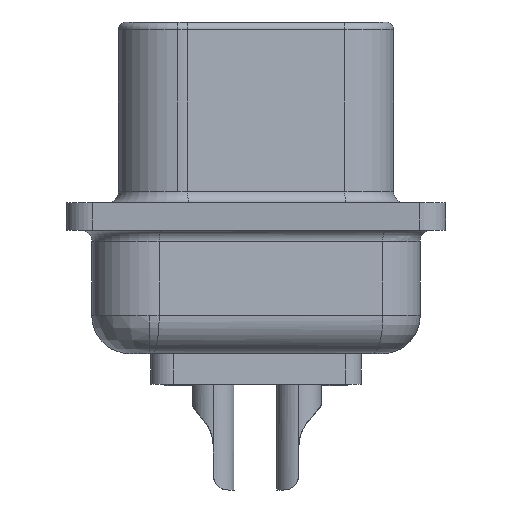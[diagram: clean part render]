
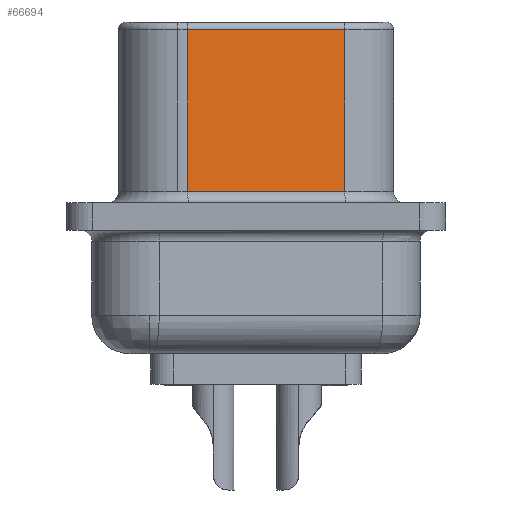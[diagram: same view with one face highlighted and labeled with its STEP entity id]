
A CAD part, left-side view. The second image highlights one B-rep face of the part: STEP entity #66694.
In plain terms, the highlighted planar face has unit normal (-0.985, -0.174, 0).
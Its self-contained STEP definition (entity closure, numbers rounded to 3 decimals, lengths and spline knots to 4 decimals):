
#10583 = VERTEX_POINT('',#10584);
#10584 = CARTESIAN_POINT('',(6.5648,8.5648,5.746));
#10599 = CYLINDRICAL_SURFACE('',#10600,1.9558);
#10600 = AXIS2_PLACEMENT_3D('',#10601,#10602,#10603);
#10601 = CARTESIAN_POINT('',(8.4909,8.9044,6.));
#10602 = DIRECTION('',(-0.,-0.,-1.));
#10603 = DIRECTION('',(-1.,0.,0.));
#10626 = CYLINDRICAL_SURFACE('',#10627,0.254);
#10627 = AXIS2_PLACEMENT_3D('',#10628,#10629,#10630);
#10628 = CARTESIAN_POINT('',(7.7337,3.3985,5.746));
#10629 = DIRECTION('',(0.174,-0.985,0.));
#10630 = DIRECTION('',(0.985,0.174,0.));
#10787 = VERTEX_POINT('',#10788);
#10788 = CARTESIAN_POINT('',(6.5648,8.5648,0.381));
#10815 = EDGE_CURVE('',#10583,#10787,#10816,.T.);
#10816 = SURFACE_CURVE('',#10817,(#10821,#10828),.PCURVE_S1.);
#10817 = LINE('',#10818,#10819);
#10818 = CARTESIAN_POINT('',(6.5648,8.5648,6.));
#10819 = VECTOR('',#10820,1.);
#10820 = DIRECTION('',(-0.,-0.,-1.));
#10821 = PCURVE('',#10599,#10822);
#10822 = DEFINITIONAL_REPRESENTATION('',(#10823),#10827);
#10823 = LINE('',#10824,#10825);
#10824 = CARTESIAN_POINT('',(6.109,0.));
#10825 = VECTOR('',#10826,1.);
#10826 = DIRECTION('',(0.,1.));
#10827 = ( GEOMETRIC_REPRESENTATION_CONTEXT(2) 
PARAMETRIC_REPRESENTATION_CONTEXT() REPRESENTATION_CONTEXT('2D SPACE',''
  ) );
#10828 = PCURVE('',#10829,#10834);
#10829 = PLANE('',#10830);
#10830 = AXIS2_PLACEMENT_3D('',#10831,#10832,#10833);
#10831 = CARTESIAN_POINT('',(7.4835,3.3544,6.));
#10832 = DIRECTION('',(0.985,0.174,-0.));
#10833 = DIRECTION('',(-0.174,0.985,0.));
#10834 = DEFINITIONAL_REPRESENTATION('',(#10835),#10839);
#10835 = LINE('',#10836,#10837);
#10836 = CARTESIAN_POINT('',(5.291,0.));
#10837 = VECTOR('',#10838,1.);
#10838 = DIRECTION('',(0.,-1.));
#10839 = ( GEOMETRIC_REPRESENTATION_CONTEXT(2) 
PARAMETRIC_REPRESENTATION_CONTEXT() REPRESENTATION_CONTEXT('2D SPACE',''
  ) );
#62458 = CYLINDRICAL_SURFACE('',#62459,0.381);
#62459 = AXIS2_PLACEMENT_3D('',#62460,#62461,#62462);
#62460 = CARTESIAN_POINT('',(7.1083,3.2882,0.381));
#62461 = DIRECTION('',(0.174,-0.985,0.));
#62462 = DIRECTION('',(0.985,0.174,0.));
#63433 = EDGE_CURVE('',#63434,#63436,#63438,.T.);
#63434 = VERTEX_POINT('',#63435);
#63435 = CARTESIAN_POINT('',(7.4835,3.3544,5.746));
#63436 = VERTEX_POINT('',#63437);
#63437 = CARTESIAN_POINT('',(7.4835,3.3544,0.381));
#63438 = SURFACE_CURVE('',#63439,(#63443,#63455),.PCURVE_S1.);
#63439 = LINE('',#63440,#63441);
#63440 = CARTESIAN_POINT('',(7.4835,3.3544,6.));
#63441 = VECTOR('',#63442,1.);
#63442 = DIRECTION('',(-0.,-0.,-1.));
#63443 = PCURVE('',#63444,#63449);
#63444 = CYLINDRICAL_SURFACE('',#63445,1.9558);
#63445 = AXIS2_PLACEMENT_3D('',#63446,#63447,#63448);
#63446 = CARTESIAN_POINT('',(9.4096,3.694,6.));
#63447 = DIRECTION('',(-0.,-0.,-1.));
#63448 = DIRECTION('',(-1.,0.,0.));
#63449 = DEFINITIONAL_REPRESENTATION('',(#63450),#63454);
#63450 = LINE('',#63451,#63452);
#63451 = CARTESIAN_POINT('',(6.109,0.));
#63452 = VECTOR('',#63453,1.);
#63453 = DIRECTION('',(0.,1.));
#63454 = ( GEOMETRIC_REPRESENTATION_CONTEXT(2) 
PARAMETRIC_REPRESENTATION_CONTEXT() REPRESENTATION_CONTEXT('2D SPACE',''
  ) );
#63455 = PCURVE('',#10829,#63456);
#63456 = DEFINITIONAL_REPRESENTATION('',(#63457),#63461);
#63457 = LINE('',#63458,#63459);
#63458 = CARTESIAN_POINT('',(0.,0.));
#63459 = VECTOR('',#63460,1.);
#63460 = DIRECTION('',(0.,-1.));
#63461 = ( GEOMETRIC_REPRESENTATION_CONTEXT(2) 
PARAMETRIC_REPRESENTATION_CONTEXT() REPRESENTATION_CONTEXT('2D SPACE',''
  ) );
#66694 = ADVANCED_FACE('',(#66695),#10829,.F.);
#66695 = FACE_BOUND('',#66696,.T.);
#66696 = EDGE_LOOP('',(#66697,#66698,#66719,#66720));
#66697 = ORIENTED_EDGE('',*,*,#10815,.T.);
#66698 = ORIENTED_EDGE('',*,*,#66699,.T.);
#66699 = EDGE_CURVE('',#10787,#63436,#66700,.T.);
#66700 = SURFACE_CURVE('',#66701,(#66705,#66712),.PCURVE_S1.);
#66701 = LINE('',#66702,#66703);
#66702 = CARTESIAN_POINT('',(7.4835,3.3544,0.381));
#66703 = VECTOR('',#66704,1.);
#66704 = DIRECTION('',(0.174,-0.985,0.));
#66705 = PCURVE('',#10829,#66706);
#66706 = DEFINITIONAL_REPRESENTATION('',(#66707),#66711);
#66707 = LINE('',#66708,#66709);
#66708 = CARTESIAN_POINT('',(0.,-5.619));
#66709 = VECTOR('',#66710,1.);
#66710 = DIRECTION('',(-1.,0.));
#66711 = ( GEOMETRIC_REPRESENTATION_CONTEXT(2) 
PARAMETRIC_REPRESENTATION_CONTEXT() REPRESENTATION_CONTEXT('2D SPACE',''
  ) );
#66712 = PCURVE('',#62458,#66713);
#66713 = DEFINITIONAL_REPRESENTATION('',(#66714),#66718);
#66714 = LINE('',#66715,#66716);
#66715 = CARTESIAN_POINT('',(6.283,0.));
#66716 = VECTOR('',#66717,1.);
#66717 = DIRECTION('',(0.,1.));
#66718 = ( GEOMETRIC_REPRESENTATION_CONTEXT(2) 
PARAMETRIC_REPRESENTATION_CONTEXT() REPRESENTATION_CONTEXT('2D SPACE',''
  ) );
#66719 = ORIENTED_EDGE('',*,*,#63433,.F.);
#66720 = ORIENTED_EDGE('',*,*,#66721,.T.);
#66721 = EDGE_CURVE('',#63434,#10583,#66722,.T.);
#66722 = SURFACE_CURVE('',#66723,(#66727,#66734),.PCURVE_S1.);
#66723 = LINE('',#66724,#66725);
#66724 = CARTESIAN_POINT('',(7.4835,3.3544,5.746));
#66725 = VECTOR('',#66726,1.);
#66726 = DIRECTION('',(-0.174,0.985,-0.));
#66727 = PCURVE('',#10829,#66728);
#66728 = DEFINITIONAL_REPRESENTATION('',(#66729),#66733);
#66729 = LINE('',#66730,#66731);
#66730 = CARTESIAN_POINT('',(0.,-0.254));
#66731 = VECTOR('',#66732,1.);
#66732 = DIRECTION('',(1.,0.));
#66733 = ( GEOMETRIC_REPRESENTATION_CONTEXT(2) 
PARAMETRIC_REPRESENTATION_CONTEXT() REPRESENTATION_CONTEXT('2D SPACE',''
  ) );
#66734 = PCURVE('',#10626,#66735);
#66735 = DEFINITIONAL_REPRESENTATION('',(#66736),#66740);
#66736 = LINE('',#66737,#66738);
#66737 = CARTESIAN_POINT('',(3.142,0.));
#66738 = VECTOR('',#66739,1.);
#66739 = DIRECTION('',(0.,-1.));
#66740 = ( GEOMETRIC_REPRESENTATION_CONTEXT(2) 
PARAMETRIC_REPRESENTATION_CONTEXT() REPRESENTATION_CONTEXT('2D SPACE',''
  ) );
